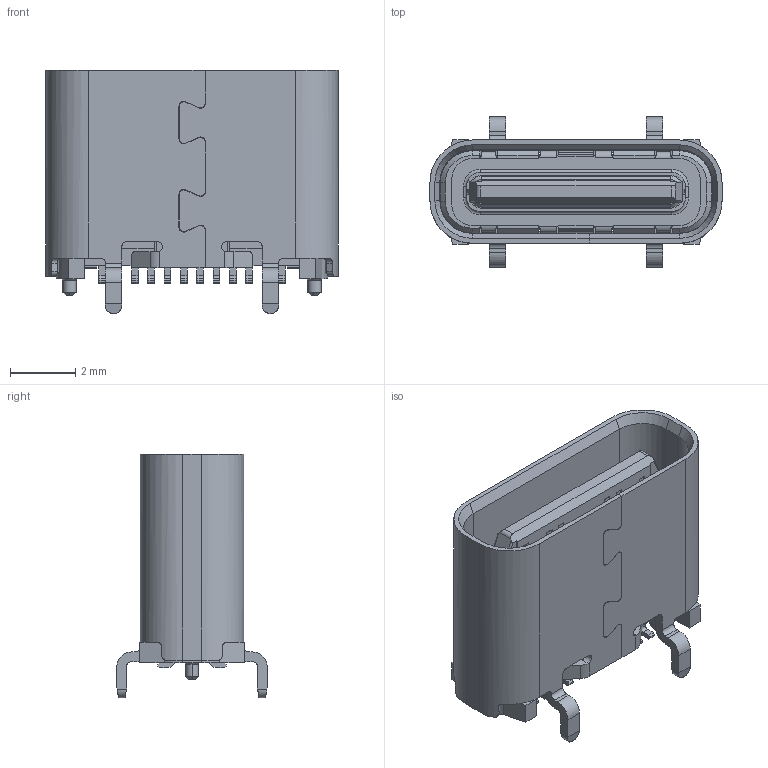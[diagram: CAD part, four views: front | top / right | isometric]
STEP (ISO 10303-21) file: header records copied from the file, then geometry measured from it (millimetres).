
FILE_DESCRIPTION (( 'STEP AP203' ), '1' );
FILE_NAME ('GT-USB-7052A02.STEP', '2024-10-21T06:34:25', ( '' ), ( '' ), 'SwSTEP 2.0', 'SolidWorks 2023', '' );
FILE_SCHEMA (( 'CONFIG_CONTROL_DESIGN' ));
Length unit declared in the file: millimetre
Products named in the file (1): GT-USB-7052A02
Bounding box: 8.94 x 4.6 x 7.45 mm (x, y, z)
Volume: 84.3 mm3; surface area: 482.2 mm2
Topology: 1 solids, 1 shells, 1275 faces, 3629 edges, 2359 vertices
Faces by surface type: plane 890, cylinder 246, bspline 84, cone 37, torus 18
Entity records: 45836 total; most frequent: CARTESIAN_POINT 12927, ORIENTED_EDGE 7252, DIRECTION 6240, EDGE_CURVE 3626, LINE 2798, VECTOR 2798, VERTEX_POINT 2359, AXIS2_PLACEMENT_3D 1721
